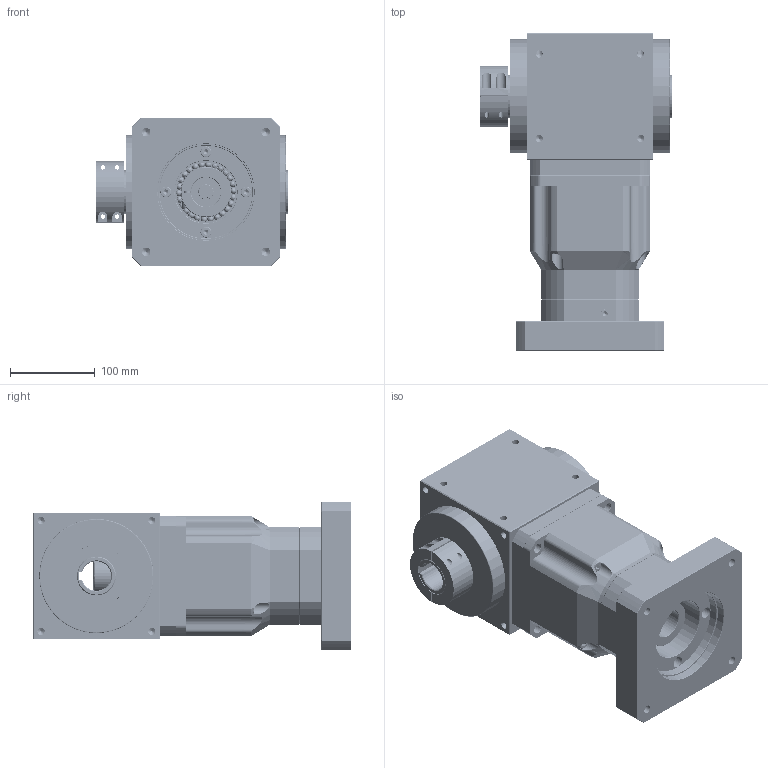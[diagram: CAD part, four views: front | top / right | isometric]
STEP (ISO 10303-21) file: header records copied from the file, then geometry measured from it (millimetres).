
FILE_DESCRIPTION (( 'STEP AP214' ), '1' );
FILE_NAME ('PAW150A-L2-C-K(12-100) 35-114.3-200-M12.STEP', '2021-04-24T08:23:26', ( 'Microsoft' ), ( 'Microsoft China' ), 'SwSTEP 2.0', 'SolidWorks 2016', '' );
FILE_SCHEMA (( 'AUTOMOTIVE_DESIGN' ));
Length unit declared in the file: millimetre
Products named in the file (39): Circlips for shaft--Type A large GB_GB_CONNECTING_PIECE_RING_RRA 50; 怮栠謫5_1; Hexagon socket countersunk head screws GB_GB_FASTENER_SCREWS_HSCHS M5X12-N; Circlips for hole--Type B GB_GB_CONNECTING_PIECE_RINGS_CHB 110_1; 粣創揤啣80; 蚐猾60X110X12_1; 115怮栠謫5A; Deep groove ball bearings GB_Rolling bearings 61821 GB 276-94_1; Deep groove ball bearings GB_Rolling bearings 6010 GB 276-94; Deep groove ball bearings GB_Rolling bearings 6212 GB 276-94_1; 媼撰笢潔楊擘; 怀堤粣5_1; Circlips for holes--Type A GB_GB_CONNECTING_PIECE_RING_RRH 62; 一级齿圈Z108_1; 115幗渀粣創10.347X15.347X20; 150標杶_1; 115俴陎謫5A; PAW150B-L1-2C-K--24-95-115-M8_1; 115俴陎謫菜え10.5; 115俴陎粣10.347X33.5; 115K114.3萇儂楊擘; PAW150A-L2-C-K(12-100) 35-114.3-200-M12; Deep groove ball bearings GB_Rolling bearings 61816 GB 276-94; 115薊粣ん35K18; 俴陎殤5A-5; Hexagon socket head cap screws GB_GB_FASTENER_SCREWS_HSHCS M6X25-N; 二级齿圈Z84; Spring lock washers--Normal type GB_GB_FASTENER_WASHER_SW 6; Circlips for hole--Type B GB_GB_CONNECTING_PIECE_RINGS_CHB 80_1; Spring lock washers--Normal type GB_GB_FASTENER_WASHER_SW 8_1; Plain parallel keys_GB_CONNECTING_PIECE_KEYS_CSK C6X18_1; Hexagon socket head cap screws GB_GB_FASTENER_SCREWS_HSHCS M8X30-N; 俴陎謫5_1; Hexagon socket head cap screws GB_GB_FASTENER_SCREWS_HSHCS M8X25-N; 行星轮垫片13.6X27_1; Hex socket set screws with flat point GB_GB_FASTENER_SCREWS_HSFP M12X16-N_1; 幗渀粣創13.513X18.513_1; Plain parallel keys_GB_CONNECTING_PIECE_KEYS_CSK C4X16; 俴陎粣13.513_1
Assembly tree (86 placements, depth 2):
  PAW150A-L2-C-K(12-100) 35-114.3-200-M12
    PAW150B-L1-2C-K--24-95-115-M8_1
    150標杶_1
    一级齿圈Z108_1
    怀堤粣5_1
    Deep groove ball bearings GB_Rolling bearings 6212 GB 276-94_1
    Deep groove ball bearings GB_Rolling bearings 61821 GB 276-94_1
    蚐猾60X110X12_1
    Circlips for hole--Type B GB_GB_CONNECTING_PIECE_RINGS_CHB 110_1
    怮栠謫5_1
    俴陎粣13.513_1  x3
    幗渀粣創13.513X18.513_1  x3
    行星轮垫片13.6X27_1  x6
    俴陎謫5_1  x3
    Plain parallel keys_GB_CONNECTING_PIECE_KEYS_CSK C6X18_1
    Circlips for hole--Type B GB_GB_CONNECTING_PIECE_RINGS_CHB 80_1
    二级齿圈Z84
    俴陎殤5A-5
    Deep groove ball bearings GB_Rolling bearings 61816 GB 276-94
    115俴陎粣10.347X33.5  x3
    115俴陎謫菜え10.5  x6
    115俴陎謫5A  x3
    115幗渀粣創10.347X15.347X20  x3
    Circlips for holes--Type A GB_GB_CONNECTING_PIECE_RING_RRH 62
    媼撰笢潔楊擘
    Deep groove ball bearings GB_Rolling bearings 6010 GB 276-94
    115怮栠謫5A
    粣創揤啣80
    Hexagon socket countersunk head screws GB_GB_FASTENER_SCREWS_HSCHS M5X12-N  x6
    Circlips for shaft--Type A large GB_GB_CONNECTING_PIECE_RING_RRA 50
    Plain parallel keys_GB_CONNECTING_PIECE_KEYS_CSK C4X16
    Hex socket set screws with flat point GB_GB_FASTENER_SCREWS_HSFP M12X16-N_1  x2
    Hexagon socket head cap screws GB_GB_FASTENER_SCREWS_HSHCS M8X25-N  x5
    Hexagon socket head cap screws GB_GB_FASTENER_SCREWS_HSHCS M8X30-N  x4
    Spring lock washers--Normal type GB_GB_FASTENER_WASHER_SW 8_1  x8
    Spring lock washers--Normal type GB_GB_FASTENER_WASHER_SW 6  x4
    Hexagon socket head cap screws GB_GB_FASTENER_SCREWS_HSHCS M6X25-N  x4
    115薊粣ん35K18
    115K114.3萇儂楊擘
Bounding box: 227 x 376 x 176 mm (x, y, z)
Volume: 7408477.3 mm3; surface area: 937297.9 mm2
Topology: 78 solids, 95 shells, 3059 faces, 9685 edges, 5963 vertices
Faces by surface type: cylinder 931, bspline 846, plane 760, cone 426, sphere 76, torus 20
Entity records: 140147 total; most frequent: CARTESIAN_POINT 51913, ORIENTED_EDGE 14834, DIRECTION 10608, EDGE_CURVE 7426, VERTEX_POINT 4922, AXIS2_PLACEMENT_3D 4512, CIRCLE 2826, EDGE_LOOP 2691
